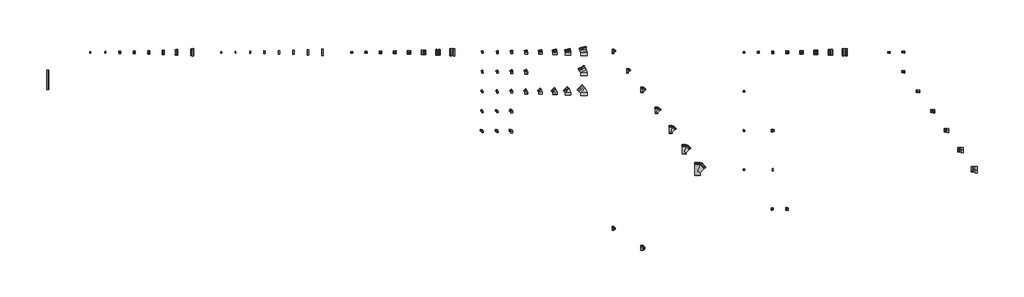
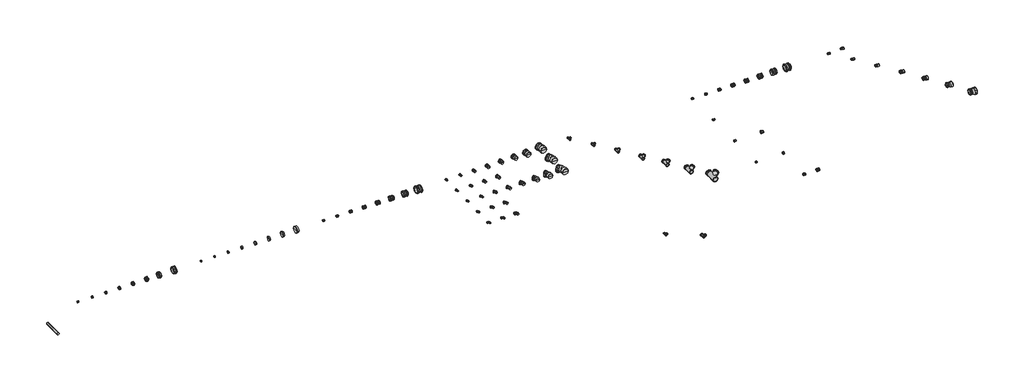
# One storey, incomplete: 83 pipe fittings, 1 pipe segment.
"""IFC4 building model written with IfcOpenShell, lengths in millimetres."""

from ifc_helpers import new_model, si_unit, point, frame, frame_2d, origin, place, context, project, spatial, circle_curve, trimmed, segment, composite_curve, outline, extrude, transform, mapped, element, save
from components import pipe_fitting_26f24fcf, pipe_fitting_ef0489c9, pipe_fitting_cb213d63, pipe_fitting_af108f88, pipe_fitting_3d71c497, pipe_fitting_c5ee8e17, pipe_fitting_79d2121d, pipe_fitting_685188a1, pipe_fitting_672a5df6, pipe_fitting_0bbe38b4, pipe_fitting_c26b3ca0, pipe_fitting_1da4e5e7, pipe_fitting_495dd315, pipe_fitting_0a85f3d4, pipe_fitting_12f81acd, pipe_fitting_13f16552, pipe_fitting_8948af7e, pipe_fitting_a664e309, pipe_fitting_a38689ed, pipe_fitting_3f897d09, pipe_fitting_a9483296, pipe_fitting_3ab6cf25, pipe_fitting_fbfbc0ed, pipe_fitting_edcea866, pipe_fitting_0b049dfd, pipe_fitting_f183f3e4, pipe_fitting_f4ad6641, pipe_fitting_2be269d6, pipe_fitting_674a1a07, pipe_fitting_a6234002, pipe_fitting_50a8f138, pipe_fitting_a88c6c78, pipe_fitting_8f992bbc, pipe_fitting_7dff9b4a, pipe_fitting_f6197389, pipe_fitting_4036b64e, pipe_fitting_5b8b662c, pipe_fitting_7f08c389, pipe_fitting_46361acc, pipe_fitting_67ac9b7c, pipe_fitting_4c6fb6e3, pipe_fitting_d5bf50a5, pipe_fitting_6151ea02, pipe_fitting_3dc73521, pipe_fitting_dc05e35d, pipe_fitting_8bdaad26, pipe_fitting_bca91d10, pipe_fitting_45af547f, pipe_fitting_11e0d1c7, pipe_fitting_3167e5d4, pipe_fitting_afd3f291, pipe_fitting_1789349f, pipe_fitting_585cb31f, pipe_fitting_d3dbc187, pipe_fitting_b5a82955, pipe_fitting_2579c0c1, pipe_fitting_275c2aea, pipe_fitting_6177effc, pipe_fitting_346920e7, pipe_fitting_337543ad, pipe_fitting_8f42d98d, pipe_fitting_5f3586b9, pipe_fitting_b5fd72b1, pipe_fitting_8769c573, pipe_fitting_27c7ea6c, pipe_fitting_ab212d34, pipe_fitting_74974c84, pipe_fitting_6f7aa1f1, pipe_fitting_ec178962, pipe_fitting_3f777d51, pipe_fitting_1e872b6d, pipe_fitting_c65eb248, pipe_fitting_62fcc302, pipe_fitting_7b812b60, pipe_fitting_88fd538e, pipe_fitting_45521c51

model = new_model("IFC4")

# Units and contexts
model_context = context("Model", 3, world=origin())
ifc_project = project(units=[si_unit("LENGTHUNIT", "METRE", prefix="MILLI")], contexts=[model_context])

# Site, building, storey
site = spatial("IfcSite", under=ifc_project)
building = spatial("IfcBuilding", under=site)
storey = spatial("IfcBuildingStorey", under=building, Name="OSMA_KG2000", Elevation=0.0)

# Pipe fittings
placement = place(None, origin())
pipe_fitting_shape = pipe_fitting_26f24fcf(model_context)
element("IfcPipeFitting", 1, ObjectType="OSMA_KG2000_PPKGB : Koleno 15°", at=placement, inside=storey, context=model_context, shape_type="MappedRepresentation", body=[
    mapped(pipe_fitting_shape, transform((33245.226992, 2106.0050083, 0.0), x_axis=(0.0, 1.0, 0.0), y_axis=(-1.0, 0.0, 0.0), z_axis=(0.0, 0.0, 1.0))),
])
pipe_fitting_2_shape = pipe_fitting_ef0489c9(model_context)
element("IfcPipeFitting", 2, ObjectType="OSMA_KG2000_PPKGU : Přesuvka", at=placement, inside=storey, context=model_context, shape_type="MappedRepresentation", body=[
    mapped(pipe_fitting_2_shape, transform((58745.226992, 2098.5666422, 0.0), x_axis=(1.0, 0.0, 0.0), y_axis=(0.0, 1.0, 0.0), z_axis=(0.0, 0.0, 1.0))),
])
pipe_fitting_3_shape = pipe_fitting_cb213d63(model_context)
element("IfcPipeFitting", 3, ObjectType="OSMA_KG2000_PPKGUG : Přechodka Litina-KG2000", at=placement, inside=storey, context=model_context, shape_type="MappedRepresentation", body=[
    mapped(pipe_fitting_3_shape, transform((53245.226992, -901.4333578, 0.0), x_axis=(1.0, 0.0, 0.0), y_axis=(0.0, 1.0, 0.0), z_axis=(0.0, 0.0, 1.0))),
])
pipe_fitting_4_shape = pipe_fitting_af108f88(model_context)
element("IfcPipeFitting", 4, ObjectType="OSMA_KG2000_PPKGUS : Přechodka Kamenina-KG2000", at=placement, inside=storey, context=model_context, shape_type="MappedRepresentation", body=[
    mapped(pipe_fitting_4_shape, transform((53245.226992, -3901.4333578, 0.0), x_axis=(1.0, 0.0, 0.0), y_axis=(0.0, 1.0, 0.0), z_axis=(0.0, 0.0, 1.0))),
])
pipe_fitting_5_shape = pipe_fitting_3d71c497(model_context)
element("IfcPipeFitting", 5, ObjectType="OSMA_KG2000_PPKGUSM : Přechodka KG2000-Kamenina", at=placement, inside=storey, context=model_context, shape_type="MappedRepresentation", body=[
    mapped(pipe_fitting_5_shape, transform((53245.226992, -6901.4333578, 0.0), x_axis=(1.0, 0.0, 0.0), y_axis=(0.0, 1.0, 0.0), z_axis=(0.0, 0.0, 1.0))),
])
pipe_fitting_6_shape = pipe_fitting_c5ee8e17(model_context)
element("IfcPipeFitting", 6, ObjectType="OSMA_KG2000_PPKGR : Redukce nesouosá dlouhá", at=placement, inside=storey, context=model_context, shape_type="MappedRepresentation", body=[
    mapped(pipe_fitting_6_shape, transform((65417.226992, 616.0666422, 37.5), x_axis=(1.0, 0.0, 0.0), y_axis=(0.0, 0.0, -1.0), z_axis=(0.0, 1.0, 0.0))),
])
pipe_fitting_7_shape = pipe_fitting_79d2121d(model_context)
element("IfcPipeFitting", 7, ObjectType="OSMA_KG2000_PPKGM : Hrdlová zátka", at=placement, inside=storey, context=model_context, shape_type="MappedRepresentation", body=[
    mapped(pipe_fitting_7_shape, transform((13245.226992, 2098.5666422, 0.0), x_axis=(1.0, 0.0, 0.0), y_axis=(0.0, 1.0, 0.0), z_axis=(0.0, 0.0, 1.0))),
])
element("IfcPipeFitting", 8, ObjectType="OSMA_KG2000_PPKGMM : Spojka dvouhrdlá", at=placement, inside=storey, context=model_context, shape_type="MappedRepresentation", body=[
    mapped(pipe_fitting_2_shape, transform((28745.226992, 2098.5666422, 0.0), x_axis=(1.0, 0.0, 0.0), y_axis=(0.0, 1.0, 0.0), z_axis=(0.0, 0.0, 1.0))),
])
pipe_fitting_8_shape = pipe_fitting_685188a1(model_context)
element("IfcPipeFitting", 9, ObjectType="OSMA_KG2000_PPKGBA : Připojení na beton", at=placement, inside=storey, context=model_context, shape_type="MappedRepresentation", body=[
    mapped(pipe_fitting_8_shape, transform((55445.226992, -9901.4333578, 0.0), x_axis=(1.0, 0.0, 0.0), y_axis=(0.0, 1.0, 0.0), z_axis=(0.0, 0.0, 1.0))),
])
pipe_fitting_9_shape = pipe_fitting_672a5df6(model_context)
element("IfcPipeFitting", 10, ObjectType="OSMA_KG2000_PPKGUS : Přechodka Kamenina-KG2000", at=placement, inside=storey, context=model_context, shape_type="MappedRepresentation", body=[
    mapped(pipe_fitting_9_shape, transform((55445.226992, -3901.4333578, 0.0), x_axis=(1.0, 0.0, 0.0), y_axis=(0.0, 1.0, 0.0), z_axis=(0.0, 0.0, 1.0))),
])
pipe_fitting_10_shape = pipe_fitting_0bbe38b4(model_context)
element("IfcPipeFitting", 11, ObjectType="OSMA_KG2000_PPKGUSM : Přechodka KG2000-Kamenina", at=placement, inside=storey, context=model_context, shape_type="MappedRepresentation", body=[
    mapped(pipe_fitting_10_shape, transform((55445.226992, -6901.4333578, 0.0), x_axis=(1.0, 0.0, 0.0), y_axis=(0.0, 1.0, 0.0), z_axis=(0.0, 0.0, 1.0))),
])
pipe_fitting_11_shape = pipe_fitting_c26b3ca0(model_context)
element("IfcPipeFitting", 12, ObjectType="OSMA_KG2000_PPKGU : Přesuvka", at=placement, inside=storey, context=model_context, shape_type="MappedRepresentation", body=[
    mapped(pipe_fitting_11_shape, transform((53245.226992, 2098.5666422, 0.0), x_axis=(1.0, 0.0, 0.0), y_axis=(0.0, 1.0, 0.0), z_axis=(0.0, 0.0, 1.0))),
])
pipe_fitting_12_shape = pipe_fitting_1da4e5e7(model_context)
element("IfcPipeFitting", 13, ObjectType="OSMA_KG2000_PPKGU : Přesuvka", at=placement, inside=storey, context=model_context, shape_type="MappedRepresentation", body=[
    mapped(pipe_fitting_12_shape, transform((54345.226992, 2098.5666422, 0.0), x_axis=(1.0, 0.0, 0.0), y_axis=(0.0, 1.0, 0.0), z_axis=(0.0, 0.0, 1.0))),
])
pipe_fitting_13_shape = pipe_fitting_495dd315(model_context)
element("IfcPipeFitting", 14, ObjectType="OSMA_KG2000_PPKGU : Přesuvka", at=placement, inside=storey, context=model_context, shape_type="MappedRepresentation", body=[
    mapped(pipe_fitting_13_shape, transform((55445.226992, 2098.5666422, 0.0), x_axis=(1.0, 0.0, 0.0), y_axis=(0.0, 1.0, 0.0), z_axis=(0.0, 0.0, 1.0))),
])
pipe_fitting_14_shape = pipe_fitting_0a85f3d4(model_context)
element("IfcPipeFitting", 15, ObjectType="OSMA_KG2000_PPKGU : Přesuvka", at=placement, inside=storey, context=model_context, shape_type="MappedRepresentation", body=[
    mapped(pipe_fitting_14_shape, transform((56545.226992, 2098.5666422, 0.0), x_axis=(1.0, 0.0, 0.0), y_axis=(0.0, 1.0, 0.0), z_axis=(0.0, 0.0, 1.0))),
])
pipe_fitting_15_shape = pipe_fitting_12f81acd(model_context)
element("IfcPipeFitting", 16, ObjectType="OSMA_KG2000_PPKGU : Přesuvka", at=placement, inside=storey, context=model_context, shape_type="MappedRepresentation", body=[
    mapped(pipe_fitting_15_shape, transform((57645.226992, 2098.5666422, 0.0), x_axis=(1.0, 0.0, 0.0), y_axis=(0.0, 1.0, 0.0), z_axis=(0.0, 0.0, 1.0))),
])
pipe_fitting_16_shape = pipe_fitting_13f16552(model_context)
element("IfcPipeFitting", 17, ObjectType="OSMA_KG2000_PPKGU : Přesuvka", at=placement, inside=storey, context=model_context, shape_type="MappedRepresentation", body=[
    mapped(pipe_fitting_16_shape, transform((59845.226992, 2098.5666422, 0.0), x_axis=(1.0, 0.0, 0.0), y_axis=(0.0, 1.0, 0.0), z_axis=(0.0, 0.0, 1.0))),
])
pipe_fitting_17_shape = pipe_fitting_8948af7e(model_context)
element("IfcPipeFitting", 18, ObjectType="OSMA_KG2000_PPKGU : Přesuvka", at=placement, inside=storey, context=model_context, shape_type="MappedRepresentation", body=[
    mapped(pipe_fitting_17_shape, transform((60945.226992, 2098.5666422, 0.0), x_axis=(1.0, 0.0, 0.0), y_axis=(0.0, 1.0, 0.0), z_axis=(0.0, 0.0, 1.0))),
])
pipe_fitting_18_shape = pipe_fitting_a664e309(model_context)
element("IfcPipeFitting", 19, ObjectType="OSMA_KG2000_PPKGR : Redukce nesouosá dlouhá", at=placement, inside=storey, context=model_context, shape_type="MappedRepresentation", body=[
    mapped(pipe_fitting_18_shape, transform((64329.226992, 2098.5666422, 0.0), x_axis=(1.0, 0.0, 0.0), y_axis=(0.0, 0.0, -1.0), z_axis=(0.0, 1.0, 0.0))),
])
pipe_fitting_19_shape = pipe_fitting_a38689ed(model_context)
element("IfcPipeFitting", 20, ObjectType="OSMA_KG2000_PPKGR : Redukce nesouosá dlouhá", at=placement, inside=storey, context=model_context, shape_type="MappedRepresentation", body=[
    mapped(pipe_fitting_19_shape, transform((65411.226992, 2123.5666422, 45.0), x_axis=(1.0, 0.0, 0.0), y_axis=(0.0, 0.0, -1.0), z_axis=(0.0, 1.0, 0.0))),
])
pipe_fitting_20_shape = pipe_fitting_3f897d09(model_context)
element("IfcPipeFitting", 21, ObjectType="OSMA_KG2000_PPKGR : Redukce nesouosá dlouhá", at=placement, inside=storey, context=model_context, shape_type="MappedRepresentation", body=[
    mapped(pipe_fitting_20_shape, transform((66513.226992, -881.4333578, 20.0), x_axis=(1.0, 0.0, 0.0), y_axis=(0.0, 0.0, -1.0), z_axis=(0.0, 1.0, 0.0))),
])
pipe_fitting_21_shape = pipe_fitting_a9483296(model_context)
element("IfcPipeFitting", 22, ObjectType="OSMA_KG2000_PPKGR : Redukce nesouosá dlouhá", at=placement, inside=storey, context=model_context, shape_type="MappedRepresentation", body=[
    mapped(pipe_fitting_21_shape, transform((67656.226992, -2401.4333578, 0.0), x_axis=(1.0, 0.0, 0.0), y_axis=(0.0, 0.0, -1.0), z_axis=(0.0, 1.0, 0.0))),
])
pipe_fitting_22_shape = pipe_fitting_3ab6cf25(model_context)
element("IfcPipeFitting", 23, ObjectType="OSMA_KG2000_PPKGR : Redukce nesouosá dlouhá", at=placement, inside=storey, context=model_context, shape_type="MappedRepresentation", body=[
    mapped(pipe_fitting_22_shape, transform((68682.226992, -3868.9333578, -25.0), x_axis=(1.0, 0.0, 0.0), y_axis=(0.0, 0.0, -1.0), z_axis=(0.0, 1.0, 0.0))),
])
pipe_fitting_23_shape = pipe_fitting_fbfbc0ed(model_context)
element("IfcPipeFitting", 24, ObjectType="OSMA_KG2000_PPKGR : Redukce nesouosá dlouhá", at=placement, inside=storey, context=model_context, shape_type="MappedRepresentation", body=[
    mapped(pipe_fitting_23_shape, transform((69754.226992, -5358.9333578, -57.5), x_axis=(1.0, 0.0, 0.0), y_axis=(0.0, 0.0, -1.0), z_axis=(0.0, 1.0, 0.0))),
])
pipe_fitting_24_shape = pipe_fitting_edcea866(model_context)
element("IfcPipeFitting", 25, ObjectType="OSMA_KG2000_PPKGR : Redukce nesouosá dlouhá", at=placement, inside=storey, context=model_context, shape_type="MappedRepresentation", body=[
    mapped(pipe_fitting_24_shape, transform((70783.226992, -6851.4333578, -100.0), x_axis=(1.0, 0.0, 0.0), y_axis=(0.0, 0.0, -1.0), z_axis=(0.0, 1.0, 0.0))),
])
pipe_fitting_25_shape = pipe_fitting_0b049dfd(model_context)
element("IfcPipeFitting", 26, ObjectType="OSMA_KG2000_PPKGBA : Připojení na beton", at=placement, inside=storey, context=model_context, shape_type="MappedRepresentation", body=[
    mapped(pipe_fitting_25_shape, transform((56545.226992, -9901.4333578, 0.0), x_axis=(1.0, 0.0, 0.0), y_axis=(0.0, 1.0, 0.0), z_axis=(0.0, 0.0, 1.0))),
])
pipe_fitting_26_shape = pipe_fitting_f183f3e4(model_context)
element("IfcPipeFitting", 27, ObjectType="OSMA_KG2000_PPKGEA : Odbočka 45°", at=placement, inside=storey, context=model_context, shape_type="MappedRepresentation", body=[
    mapped(pipe_fitting_26_shape, transform((43245.226992, 2098.5666422, 0.0), x_axis=(0.0, 1.0, 0.0), y_axis=(-1.0, 0.0, 0.0), z_axis=(0.0, 0.0, 1.0))),
])
pipe_fitting_27_shape = pipe_fitting_f4ad6641(model_context)
element("IfcPipeFitting", 28, ObjectType="OSMA_KG2000_PPKGEA : Odbočka 45°", at=placement, inside=storey, context=model_context, shape_type="MappedRepresentation", body=[
    mapped(pipe_fitting_27_shape, transform((44345.226992, 598.5666422, 0.0), x_axis=(0.0, 1.0, 0.0), y_axis=(-1.0, 0.0, 0.0), z_axis=(0.0, 0.0, 1.0))),
])
pipe_fitting_28_shape = pipe_fitting_2be269d6(model_context)
element("IfcPipeFitting", 29, ObjectType="OSMA_KG2000_PPKGEA : Odbočka 45°", at=placement, inside=storey, context=model_context, shape_type="MappedRepresentation", body=[
    mapped(pipe_fitting_28_shape, transform((45445.226992, -901.4333578, 0.0), x_axis=(0.0, 1.0, 0.0), y_axis=(-1.0, 0.0, 0.0), z_axis=(0.0, 0.0, 1.0))),
])
pipe_fitting_29_shape = pipe_fitting_674a1a07(model_context)
element("IfcPipeFitting", 30, ObjectType="OSMA_KG2000_PPKGEA : Odbočka 45°", at=placement, inside=storey, context=model_context, shape_type="MappedRepresentation", body=[
    mapped(pipe_fitting_29_shape, transform((46545.226992, -2481.4333578, 0.0), x_axis=(0.0, 1.0, 0.0), y_axis=(-1.0, 0.0, 0.0), z_axis=(0.0, 0.0, 1.0))),
])
pipe_fitting_30_shape = pipe_fitting_a6234002(model_context)
element("IfcPipeFitting", 31, ObjectType="OSMA_KG2000_PPKGEA : Odbočka 45°", at=placement, inside=storey, context=model_context, shape_type="MappedRepresentation", body=[
    mapped(pipe_fitting_30_shape, transform((47645.226992, -3961.4333578, 0.0), x_axis=(0.0, 1.0, 0.0), y_axis=(-1.0, 0.0, 0.0), z_axis=(0.0, 0.0, 1.0))),
])
pipe_fitting_31_shape = pipe_fitting_50a8f138(model_context)
element("IfcPipeFitting", 32, ObjectType="OSMA_KG2000_PPKGEA : Odbočka 45°", at=placement, inside=storey, context=model_context, shape_type="MappedRepresentation", body=[
    mapped(pipe_fitting_31_shape, transform((48665.226992, -5521.4333578, 0.0), x_axis=(0.0, 1.0, 0.0), y_axis=(-1.0, 0.0, 0.0), z_axis=(0.0, 0.0, 1.0))),
])
pipe_fitting_32_shape = pipe_fitting_a88c6c78(model_context)
element("IfcPipeFitting", 33, ObjectType="OSMA_KG2000_PPKGEA : Odbočka 45°", at=placement, inside=storey, context=model_context, shape_type="MappedRepresentation", body=[
    mapped(pipe_fitting_32_shape, transform((49685.226992, -7021.4333578, 0.0), x_axis=(0.0, 1.0, 0.0), y_axis=(-1.0, 0.0, 0.0), z_axis=(0.0, 0.0, 1.0))),
])
pipe_fitting_33_shape = pipe_fitting_8f992bbc(model_context)
element("IfcPipeFitting", 34, ObjectType="OSMA_KG2000_PPKGEA : Odbočka 87°", at=placement, inside=storey, context=model_context, shape_type="MappedRepresentation", body=[
    mapped(pipe_fitting_33_shape, transform((45445.226992, -12901.4333578, 0.0), x_axis=(0.0, 1.0, 0.0), y_axis=(-1.0, 0.0, 0.0), z_axis=(0.0, 0.0, 1.0))),
])
pipe_fitting_34_shape = pipe_fitting_7dff9b4a(model_context)
element("IfcPipeFitting", 35, ObjectType="OSMA_KG2000_PPKGB : Koleno 15°", at=placement, inside=storey, context=model_context, shape_type="MappedRepresentation", body=[
    mapped(pipe_fitting_34_shape, transform((34395.226992, 2106.0050083, 0.0), x_axis=(0.0, 1.0, 0.0), y_axis=(-1.0, 0.0, 0.0), z_axis=(0.0, 0.0, 1.0))),
])
pipe_fitting_35_shape = pipe_fitting_f6197389(model_context)
element("IfcPipeFitting", 36, ObjectType="OSMA_KG2000_PPKGB : Koleno 15°", at=placement, inside=storey, context=model_context, shape_type="MappedRepresentation", body=[
    mapped(pipe_fitting_35_shape, transform((35495.226992, 2106.0050083, 0.0), x_axis=(0.0, 1.0, 0.0), y_axis=(-1.0, 0.0, 0.0), z_axis=(0.0, 0.0, 1.0))),
])
pipe_fitting_36_shape = pipe_fitting_4036b64e(model_context)
element("IfcPipeFitting", 37, ObjectType="OSMA_KG2000_PPKGB : Koleno 15°", at=placement, inside=storey, context=model_context, shape_type="MappedRepresentation", body=[
    mapped(pipe_fitting_36_shape, transform((36595.226992, 2106.0050083, 0.0), x_axis=(0.0, 1.0, 0.0), y_axis=(-1.0, 0.0, 0.0), z_axis=(0.0, 0.0, 1.0))),
])
pipe_fitting_37_shape = pipe_fitting_5b8b662c(model_context)
element("IfcPipeFitting", 38, ObjectType="OSMA_KG2000_PPKGB : Koleno 15°", at=placement, inside=storey, context=model_context, shape_type="MappedRepresentation", body=[
    mapped(pipe_fitting_37_shape, transform((37695.226992, 2106.0050083, 0.0), x_axis=(0.0, 1.0, 0.0), y_axis=(-1.0, 0.0, 0.0), z_axis=(0.0, 0.0, 1.0))),
])
pipe_fitting_38_shape = pipe_fitting_7f08c389(model_context)
element("IfcPipeFitting", 39, ObjectType="OSMA_KG2000_PPKGB : Koleno 15°", at=placement, inside=storey, context=model_context, shape_type="MappedRepresentation", body=[
    mapped(pipe_fitting_38_shape, transform((38795.226992, 2106.0050083, 0.0), x_axis=(0.0, 1.0, 0.0), y_axis=(-1.0, 0.0, 0.0), z_axis=(0.0, 0.0, 1.0))),
])
pipe_fitting_39_shape = pipe_fitting_46361acc(model_context)
element("IfcPipeFitting", 40, ObjectType="OSMA_KG2000_PPKGB : Koleno 15°", at=placement, inside=storey, context=model_context, shape_type="MappedRepresentation", body=[
    mapped(pipe_fitting_39_shape, transform((39795.226992, 2106.0050083, 0.0), x_axis=(0.0, 1.0, 0.0), y_axis=(-1.0, 0.0, 0.0), z_axis=(0.0, 0.0, 1.0))),
])
pipe_fitting_40_shape = pipe_fitting_67ac9b7c(model_context)
element("IfcPipeFitting", 41, ObjectType="OSMA_KG2000_PPKGB : Koleno 15°", at=placement, inside=storey, context=model_context, shape_type="MappedRepresentation", body=[
    mapped(pipe_fitting_40_shape, transform((40995.226992, 2106.0050083, 0.0), x_axis=(0.0, 1.0, 0.0), y_axis=(-1.0, 0.0, 0.0), z_axis=(0.0, 0.0, 1.0))),
])
pipe_fitting_41_shape = pipe_fitting_4c6fb6e3(model_context)
element("IfcPipeFitting", 42, ObjectType="OSMA_KG2000_PPKGB : Koleno 30°", at=placement, inside=storey, context=model_context, shape_type="MappedRepresentation", body=[
    mapped(pipe_fitting_41_shape, transform((34395.226992, 606.0050083, 0.0), x_axis=(0.0, 1.0, 0.0), y_axis=(-1.0, 0.0, 0.0), z_axis=(0.0, 0.0, 1.0))),
])
pipe_fitting_42_shape = pipe_fitting_d5bf50a5(model_context)
element("IfcPipeFitting", 43, ObjectType="OSMA_KG2000_PPKGB : Koleno 30°", at=placement, inside=storey, context=model_context, shape_type="MappedRepresentation", body=[
    mapped(pipe_fitting_42_shape, transform((35495.226992, 606.0050083, 0.0), x_axis=(0.0, 1.0, 0.0), y_axis=(-1.0, 0.0, 0.0), z_axis=(0.0, 0.0, 1.0))),
])
pipe_fitting_43_shape = pipe_fitting_6151ea02(model_context)
element("IfcPipeFitting", 44, ObjectType="OSMA_KG2000_PPKGB : Koleno 30°", at=placement, inside=storey, context=model_context, shape_type="MappedRepresentation", body=[
    mapped(pipe_fitting_43_shape, transform((36595.226992, 606.0050083, 0.0), x_axis=(0.0, 1.0, 0.0), y_axis=(-1.0, 0.0, 0.0), z_axis=(0.0, 0.0, 1.0))),
])
pipe_fitting_44_shape = pipe_fitting_3dc73521(model_context)
element("IfcPipeFitting", 45, ObjectType="OSMA_KG2000_PPKGB : Koleno 30°", at=placement, inside=storey, context=model_context, shape_type="MappedRepresentation", body=[
    mapped(pipe_fitting_44_shape, transform((40995.226992, 606.0050083, 0.0), x_axis=(0.0, 1.0, 0.0), y_axis=(-1.0, 0.0, 0.0), z_axis=(0.0, 0.0, 1.0))),
])
pipe_fitting_45_shape = pipe_fitting_dc05e35d(model_context)
element("IfcPipeFitting", 46, ObjectType="OSMA_KG2000_PPKGB : Koleno 45°", at=placement, inside=storey, context=model_context, shape_type="MappedRepresentation", body=[
    mapped(pipe_fitting_45_shape, transform((34395.226992, -893.9949917, 0.0), x_axis=(0.0, 1.0, 0.0), y_axis=(-1.0, 0.0, 0.0), z_axis=(0.0, 0.0, 1.0))),
])
pipe_fitting_46_shape = pipe_fitting_8bdaad26(model_context)
element("IfcPipeFitting", 47, ObjectType="OSMA_KG2000_PPKGB : Koleno 45°", at=placement, inside=storey, context=model_context, shape_type="MappedRepresentation", body=[
    mapped(pipe_fitting_46_shape, transform((35495.226992, -893.9949917, 0.0), x_axis=(0.0, 1.0, 0.0), y_axis=(-1.0, 0.0, 0.0), z_axis=(0.0, 0.0, 1.0))),
])
pipe_fitting_47_shape = pipe_fitting_bca91d10(model_context)
element("IfcPipeFitting", 48, ObjectType="OSMA_KG2000_PPKGB : Koleno 45°", at=placement, inside=storey, context=model_context, shape_type="MappedRepresentation", body=[
    mapped(pipe_fitting_47_shape, transform((36595.226992, -893.9949917, 0.0), x_axis=(0.0, 1.0, 0.0), y_axis=(-1.0, 0.0, 0.0), z_axis=(0.0, 0.0, 1.0))),
])
pipe_fitting_48_shape = pipe_fitting_45af547f(model_context)
element("IfcPipeFitting", 49, ObjectType="OSMA_KG2000_PPKGB : Koleno 45°", at=placement, inside=storey, context=model_context, shape_type="MappedRepresentation", body=[
    mapped(pipe_fitting_48_shape, transform((37695.226992, -893.9949917, 0.0), x_axis=(0.0, 1.0, 0.0), y_axis=(-1.0, 0.0, 0.0), z_axis=(0.0, 0.0, 1.0))),
])
pipe_fitting_49_shape = pipe_fitting_11e0d1c7(model_context)
element("IfcPipeFitting", 50, ObjectType="OSMA_KG2000_PPKGB : Koleno 45°", at=placement, inside=storey, context=model_context, shape_type="MappedRepresentation", body=[
    mapped(pipe_fitting_49_shape, transform((38795.226992, -893.9949917, 0.0), x_axis=(0.0, 1.0, 0.0), y_axis=(-1.0, 0.0, 0.0), z_axis=(0.0, 0.0, 1.0))),
])
pipe_fitting_50_shape = pipe_fitting_3167e5d4(model_context)
element("IfcPipeFitting", 51, ObjectType="OSMA_KG2000_PPKGB : Koleno 45°", at=placement, inside=storey, context=model_context, shape_type="MappedRepresentation", body=[
    mapped(pipe_fitting_50_shape, transform((39795.226992, -893.9949917, 0.0), x_axis=(0.0, 1.0, 0.0), y_axis=(-1.0, 0.0, 0.0), z_axis=(0.0, 0.0, 1.0))),
])
pipe_fitting_51_shape = pipe_fitting_afd3f291(model_context)
element("IfcPipeFitting", 52, ObjectType="OSMA_KG2000_PPKGB : Koleno 45°", at=placement, inside=storey, context=model_context, shape_type="MappedRepresentation", body=[
    mapped(pipe_fitting_51_shape, transform((40995.226992, -893.9949917, 0.0), x_axis=(0.0, 1.0, 0.0), y_axis=(-1.0, 0.0, 0.0), z_axis=(0.0, 0.0, 1.0))),
])
pipe_fitting_52_shape = pipe_fitting_1789349f(model_context)
element("IfcPipeFitting", 53, ObjectType="OSMA_KG2000_PPKGB : Koleno 67°", at=placement, inside=storey, context=model_context, shape_type="MappedRepresentation", body=[
    mapped(pipe_fitting_52_shape, transform((34395.226992, -2393.9949917, 0.0), x_axis=(0.0, 1.0, 0.0), y_axis=(-1.0, 0.0, 0.0), z_axis=(0.0, 0.0, 1.0))),
])
pipe_fitting_53_shape = pipe_fitting_585cb31f(model_context)
element("IfcPipeFitting", 54, ObjectType="OSMA_KG2000_PPKGB : Koleno 67°", at=placement, inside=storey, context=model_context, shape_type="MappedRepresentation", body=[
    mapped(pipe_fitting_53_shape, transform((35495.226992, -2393.9949917, 0.0), x_axis=(0.0, 1.0, 0.0), y_axis=(-1.0, 0.0, 0.0), z_axis=(0.0, 0.0, 1.0))),
])
pipe_fitting_54_shape = pipe_fitting_d3dbc187(model_context)
element("IfcPipeFitting", 55, ObjectType="OSMA_KG2000_PPKGB : Koleno 87°", at=placement, inside=storey, context=model_context, shape_type="MappedRepresentation", body=[
    mapped(pipe_fitting_54_shape, transform((34395.226992, -3893.9949917, 0.0), x_axis=(0.0, 1.0, 0.0), y_axis=(-1.0, 0.0, 0.0), z_axis=(0.0, 0.0, 1.0))),
])
pipe_fitting_55_shape = pipe_fitting_b5a82955(model_context)
element("IfcPipeFitting", 56, ObjectType="OSMA_KG2000_PPKGB : Koleno 87°", at=placement, inside=storey, context=model_context, shape_type="MappedRepresentation", body=[
    mapped(pipe_fitting_55_shape, transform((35495.226992, -3893.9949917, 0.0), x_axis=(0.0, 1.0, 0.0), y_axis=(-0.9999999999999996, 0.0, 0.0), z_axis=(0.0, 0.0, 0.9999999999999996))),
])
element("IfcPipeFitting", 57, ObjectType="OSMA_KG2000_PPKGMM : Spojka dvouhrdlá", at=placement, inside=storey, context=model_context, shape_type="MappedRepresentation", body=[
    mapped(pipe_fitting_11_shape, transform((23245.226992, 2098.5666422, 0.0), x_axis=(1.0, 0.0, 0.0), y_axis=(0.0, 1.0, 0.0), z_axis=(0.0, 0.0, 1.0))),
])
element("IfcPipeFitting", 58, ObjectType="OSMA_KG2000_PPKGMM : Spojka dvouhrdlá", at=placement, inside=storey, context=model_context, shape_type="MappedRepresentation", body=[
    mapped(pipe_fitting_12_shape, transform((24345.226992, 2098.5666422, 0.0), x_axis=(1.0, 0.0, 0.0), y_axis=(0.0, 1.0, 0.0), z_axis=(0.0, 0.0, 1.0))),
])
element("IfcPipeFitting", 59, ObjectType="OSMA_KG2000_PPKGMM : Spojka dvouhrdlá", at=placement, inside=storey, context=model_context, shape_type="MappedRepresentation", body=[
    mapped(pipe_fitting_13_shape, transform((25445.226992, 2098.5666422, 0.0), x_axis=(1.0, 0.0, 0.0), y_axis=(0.0, 1.0, 0.0), z_axis=(0.0, 0.0, 1.0))),
])
element("IfcPipeFitting", 60, ObjectType="OSMA_KG2000_PPKGMM : Spojka dvouhrdlá", at=placement, inside=storey, context=model_context, shape_type="MappedRepresentation", body=[
    mapped(pipe_fitting_14_shape, transform((26545.226992, 2098.5666422, 0.0), x_axis=(1.0, 0.0, 0.0), y_axis=(0.0, 1.0, 0.0), z_axis=(0.0, 0.0, 1.0))),
])
element("IfcPipeFitting", 61, ObjectType="OSMA_KG2000_PPKGMM : Spojka dvouhrdlá", at=placement, inside=storey, context=model_context, shape_type="MappedRepresentation", body=[
    mapped(pipe_fitting_15_shape, transform((27645.226992, 2098.5666422, 0.0), x_axis=(1.0, 0.0, 0.0), y_axis=(0.0, 1.0, 0.0), z_axis=(0.0, 0.0, 1.0))),
])
element("IfcPipeFitting", 62, ObjectType="OSMA_KG2000_PPKGMM : Spojka dvouhrdlá", at=placement, inside=storey, context=model_context, shape_type="MappedRepresentation", body=[
    mapped(pipe_fitting_16_shape, transform((29845.226992, 2098.5666422, 0.0), x_axis=(1.0, 0.0, 0.0), y_axis=(0.0, 1.0, 0.0), z_axis=(0.0, 0.0, 1.0))),
])
pipe_fitting_56_shape = pipe_fitting_2579c0c1(model_context)
element("IfcPipeFitting", 63, ObjectType="OSMA_KG2000_PPKGMM : Spojka dvouhrdlá", at=placement, inside=storey, context=model_context, shape_type="MappedRepresentation", body=[
    mapped(pipe_fitting_56_shape, transform((30945.226992, 2098.5666422, 0.0), x_axis=(1.0, 0.0, 0.0), y_axis=(0.0, 1.0, 0.0), z_axis=(0.0, 0.0, 1.0))),
])
pipe_fitting_57_shape = pipe_fitting_275c2aea(model_context)
element("IfcPipeFitting", 64, ObjectType="OSMA_KG2000_PPKGM : Hrdlová zátka", at=placement, inside=storey, context=model_context, shape_type="MappedRepresentation", body=[
    mapped(pipe_fitting_57_shape, transform((14345.226992, 2098.5666422, 0.0), x_axis=(1.0, 0.0, 0.0), y_axis=(0.0, 1.0, 0.0), z_axis=(0.0, 0.0, 1.0))),
])
pipe_fitting_58_shape = pipe_fitting_6177effc(model_context)
element("IfcPipeFitting", 65, ObjectType="OSMA_KG2000_PPKGM : Hrdlová zátka", at=placement, inside=storey, context=model_context, shape_type="MappedRepresentation", body=[
    mapped(pipe_fitting_58_shape, transform((15445.226992, 2098.5666422, 0.0), x_axis=(1.0, 0.0, 0.0), y_axis=(0.0, 1.0, 0.0), z_axis=(0.0, 0.0, 1.0))),
])
pipe_fitting_59_shape = pipe_fitting_346920e7(model_context)
element("IfcPipeFitting", 66, ObjectType="OSMA_KG2000_PPKGM : Hrdlová zátka", at=placement, inside=storey, context=model_context, shape_type="MappedRepresentation", body=[
    mapped(pipe_fitting_59_shape, transform((16545.226992, 2098.5666422, 0.0), x_axis=(1.0, 0.0, 0.0), y_axis=(0.0, 1.0, 0.0), z_axis=(0.0, 0.0, 1.0))),
])
pipe_fitting_60_shape = pipe_fitting_337543ad(model_context)
element("IfcPipeFitting", 67, ObjectType="OSMA_KG2000_PPKGM : Hrdlová zátka", at=placement, inside=storey, context=model_context, shape_type="MappedRepresentation", body=[
    mapped(pipe_fitting_60_shape, transform((17645.226992, 2098.5666422, 0.0), x_axis=(1.0, 0.0, 0.0), y_axis=(0.0, 1.0, 0.0), z_axis=(0.0, 0.0, 1.0))),
])
pipe_fitting_61_shape = pipe_fitting_8f42d98d(model_context)
element("IfcPipeFitting", 68, ObjectType="OSMA_KG2000_PPKGM : Hrdlová zátka", at=placement, inside=storey, context=model_context, shape_type="MappedRepresentation", body=[
    mapped(pipe_fitting_61_shape, transform((18745.226992, 2098.5666422, 0.0), x_axis=(1.0, 0.0, 0.0), y_axis=(0.0, 1.0, 0.0), z_axis=(0.0, 0.0, 1.0))),
])
pipe_fitting_62_shape = pipe_fitting_5f3586b9(model_context)
element("IfcPipeFitting", 69, ObjectType="OSMA_KG2000_PPKGM : Hrdlová zátka", at=placement, inside=storey, context=model_context, shape_type="MappedRepresentation", body=[
    mapped(pipe_fitting_62_shape, transform((19845.226992, 2098.5666422, 0.0), x_axis=(1.0, 0.0, 0.0), y_axis=(0.0, 1.0, 0.0), z_axis=(0.0, 0.0, 1.0))),
])
pipe_fitting_63_shape = pipe_fitting_b5fd72b1(model_context)
element("IfcPipeFitting", 70, ObjectType="OSMA_KG2000_PPKGM : Hrdlová zátka", at=placement, inside=storey, context=model_context, shape_type="MappedRepresentation", body=[
    mapped(pipe_fitting_63_shape, transform((20945.226992, 2098.5666422, 0.0), x_axis=(1.0, 0.0, 0.0), y_axis=(0.0, 1.0, 0.0), z_axis=(0.0, 0.0, 1.0))),
])
pipe_fitting_64_shape = pipe_fitting_8769c573(model_context)
element("IfcPipeFitting", 71, ObjectType="OSMA_KG2000_Hrdlo : Hrdlo", at=placement, inside=storey, context=model_context, shape_type="MappedRepresentation", body=[
    mapped(pipe_fitting_64_shape, transform((4361.726992, 2098.5666422, 0.0), x_axis=(1.0, 0.0, 0.0), y_axis=(0.0, 1.0, 0.0), z_axis=(0.0, 0.0, 1.0))),
])
pipe_fitting_65_shape = pipe_fitting_27c7ea6c(model_context)
element("IfcPipeFitting", 72, ObjectType="OSMA_KG2000_Hrdlo : Hrdlo", at=placement, inside=storey, context=model_context, shape_type="MappedRepresentation", body=[
    mapped(pipe_fitting_65_shape, transform((5461.726992, 2098.5666422, 0.0), x_axis=(1.0, 0.0, 0.0), y_axis=(0.0, 1.0, 0.0), z_axis=(0.0, 0.0, 1.0))),
])
pipe_fitting_66_shape = pipe_fitting_ab212d34(model_context)
element("IfcPipeFitting", 73, ObjectType="OSMA_KG2000_Hrdlo : Hrdlo", at=placement, inside=storey, context=model_context, shape_type="MappedRepresentation", body=[
    mapped(pipe_fitting_66_shape, transform((6561.726992, 2098.5666422, 0.0), x_axis=(1.0, 0.0, 0.0), y_axis=(0.0, 1.0, 0.0), z_axis=(0.0, 0.0, 1.0))),
])
pipe_fitting_67_shape = pipe_fitting_74974c84(model_context)
element("IfcPipeFitting", 74, ObjectType="OSMA_KG2000_Hrdlo : Hrdlo", at=placement, inside=storey, context=model_context, shape_type="MappedRepresentation", body=[
    mapped(pipe_fitting_67_shape, transform((7661.726992, 2098.5666422, 0.0), x_axis=(1.0, 0.0, 0.0), y_axis=(0.0, 1.0, 0.0), z_axis=(0.0, 0.0, 1.0))),
])
pipe_fitting_68_shape = pipe_fitting_6f7aa1f1(model_context)
element("IfcPipeFitting", 75, ObjectType="OSMA_KG2000_Hrdlo : Hrdlo", at=placement, inside=storey, context=model_context, shape_type="MappedRepresentation", body=[
    mapped(pipe_fitting_68_shape, transform((8761.726992, 2098.5666422, 0.0), x_axis=(1.0, 0.0, 0.0), y_axis=(0.0, 1.0, 0.0), z_axis=(0.0, 0.0, 1.0))),
])
pipe_fitting_69_shape = pipe_fitting_ec178962(model_context)
element("IfcPipeFitting", 76, ObjectType="OSMA_KG2000_Hrdlo : Hrdlo", at=placement, inside=storey, context=model_context, shape_type="MappedRepresentation", body=[
    mapped(pipe_fitting_69_shape, transform((9761.726992, 2098.5666422, 0.0), x_axis=(1.0, 0.0, 0.0), y_axis=(0.0, 1.0, 0.0), z_axis=(0.0, 0.0, 1.0))),
])
pipe_fitting_70_shape = pipe_fitting_3f777d51(model_context)
element("IfcPipeFitting", 77, ObjectType="OSMA_KG2000_Hrdlo : Hrdlo", at=placement, inside=storey, context=model_context, shape_type="MappedRepresentation", body=[
    mapped(pipe_fitting_70_shape, transform((10961.726992, 2098.5666422, 0.0), x_axis=(1.0, 0.0, 0.0), y_axis=(0.0, 1.0, 0.0), z_axis=(0.0, 0.0, 1.0))),
])
pipe_fitting_71_shape = pipe_fitting_1e872b6d(model_context)
element("IfcPipeFitting", 78, ObjectType="OSMA_KG2000_PPKGB : Koleno 30°", at=placement, inside=storey, context=model_context, shape_type="MappedRepresentation", body=[
    mapped(pipe_fitting_71_shape, transform((33245.226992, 606.0050083, 0.0), x_axis=(0.0, 1.0, 0.0), y_axis=(-1.0, 0.0, 0.0), z_axis=(0.0, 0.0, 1.0))),
])
pipe_fitting_72_shape = pipe_fitting_c65eb248(model_context)
element("IfcPipeFitting", 79, ObjectType="OSMA_KG2000_PPKGB : Koleno 45°", at=placement, inside=storey, context=model_context, shape_type="MappedRepresentation", body=[
    mapped(pipe_fitting_72_shape, transform((33245.226992, -893.9949917, 0.0), x_axis=(0.0, 1.0, 0.0), y_axis=(-1.0, 0.0, 0.0), z_axis=(0.0, 0.0, 1.0))),
])
pipe_fitting_73_shape = pipe_fitting_62fcc302(model_context)
element("IfcPipeFitting", 80, ObjectType="OSMA_KG2000_PPKGB : Koleno 67°", at=placement, inside=storey, context=model_context, shape_type="MappedRepresentation", body=[
    mapped(pipe_fitting_73_shape, transform((33245.226992, -2393.9949917, 0.0), x_axis=(0.0, 1.0, 0.0), y_axis=(-1.0, 0.0, 0.0), z_axis=(0.0, 0.0, 1.0))),
])
pipe_fitting_74_shape = pipe_fitting_7b812b60(model_context)
element("IfcPipeFitting", 81, ObjectType="OSMA_KG2000_PPKGB : Koleno 87°", at=placement, inside=storey, context=model_context, shape_type="MappedRepresentation", body=[
    mapped(pipe_fitting_74_shape, transform((33245.226992, -3893.9949917, 0.0), x_axis=(0.0, 1.0, 0.0), y_axis=(-1.0, 0.0, 0.0), z_axis=(0.0, 0.0, 1.0))),
])
pipe_fitting_75_shape = pipe_fitting_88fd538e(model_context)
element("IfcPipeFitting", 82, ObjectType="OSMA_KG2000_Hrdlo : Hrdlo", at=placement, inside=storey, context=model_context, shape_type="MappedRepresentation", body=[
    mapped(pipe_fitting_75_shape, transform((3211.726992, 2098.5666422, 0.0), x_axis=(1.0, 0.0, 0.0), y_axis=(0.0, 1.0, 0.0), z_axis=(0.0, 0.0, 1.0))),
])
pipe_fitting_76_shape = pipe_fitting_45521c51(model_context)
element("IfcPipeFitting", 83, ObjectType="OSMA_KG2000_PPKGEA : Odbočka 87°", at=placement, inside=storey, context=model_context, shape_type="MappedRepresentation", body=[
    mapped(pipe_fitting_76_shape, transform((43245.226992, -11401.4333578, 0.0), x_axis=(0.0, 1.0, 0.0), y_axis=(-1.0, 0.0, 0.0), z_axis=(0.0, 0.0, 1.0))),
])

# Pipe segment
element("IfcPipeSegment", 84, ObjectType="OSMA_KG2000", at=placement, inside=storey, context=model_context, shape_type="SweptSolid", body=[
    extrude(outline(composite_curve([segment(trimmed(circle_curve(frame_2d((100.0, 0.0)), 80.0), [point((100.0, -80.0))], [point((20.0, 0.0))], False, "CARTESIAN"), True, "CONTINUOUS"), segment(trimmed(circle_curve(frame_2d((100.0, 0.0)), 80.0), [point((20.0, 0.0))], [point((100.0, 80.0))], False, "CARTESIAN"), True, "CONTINUOUS"), segment(trimmed(circle_curve(frame_2d((100.0, 0.0)), 80.0), [point((100.0, 80.0))], [point((180.0, 0.0))], False, "CARTESIAN"), True, "CONTINUOUS"), segment(trimmed(circle_curve(frame_2d((100.0, 0.0)), 80.0), [point((180.0, 0.0))], [point((100.0, -80.0))], False, "CARTESIAN"), True, "CONTINUOUS")], self_intersect=False)), frame((0.0, -750.0, 0.0), z_axis=(0.0, 1.0, 0.0), x_axis=(0.0, 0.0, 1.0)), (0.0, 0.0, 1.0), 1500.0),
])

save(model, "model.ifc")
